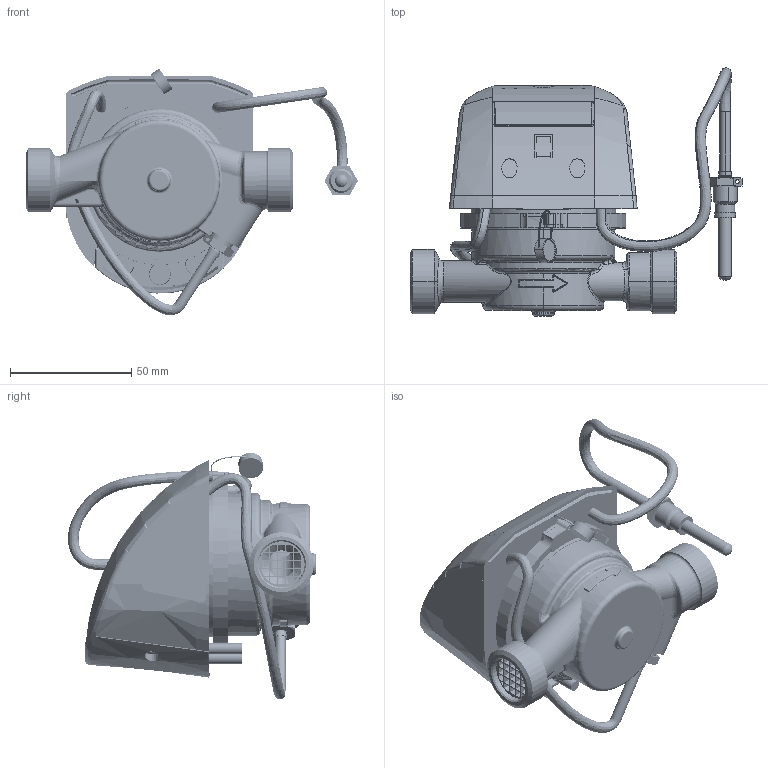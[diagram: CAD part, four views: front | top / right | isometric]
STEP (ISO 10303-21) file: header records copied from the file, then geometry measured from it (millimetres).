
FILE_DESCRIPTION (( 'STEP AP214' ), '1' );
FILE_NAME ('ELF2-JS90-1,5-TI.STEP', '2025-08-01T14:10:13', ( '' ), ( '' ), 'SwSTEP 2.0', 'SolidWorks 2019', '' );
FILE_SCHEMA (( 'AUTOMOTIVE_DESIGN' ));
Length unit declared in the file: millimetre
Products named in the file (1): ELF2-JS90-1,5-TI
Bounding box: 136.94 x 102.3 x 101.61 mm (x, y, z)
Surface area: 144899.4 mm2 (no closed solid volume)
Topology: 0 solids, 48 shells, 4817 faces, 12518 edges, 7858 vertices
Faces by surface type: plane 1935, bspline 913, cylinder 702, cone 689, torus 388, sphere 190
Entity records: 257758 total; most frequent: CARTESIAN_POINT 97736, ORIENTED_EDGE 24784, DIRECTION 18368, EDGE_CURVE 12393, VERTEX_POINT 7847, AXIS2_PLACEMENT_3D 6739, EDGE_LOOP 5221, LINE 4890
